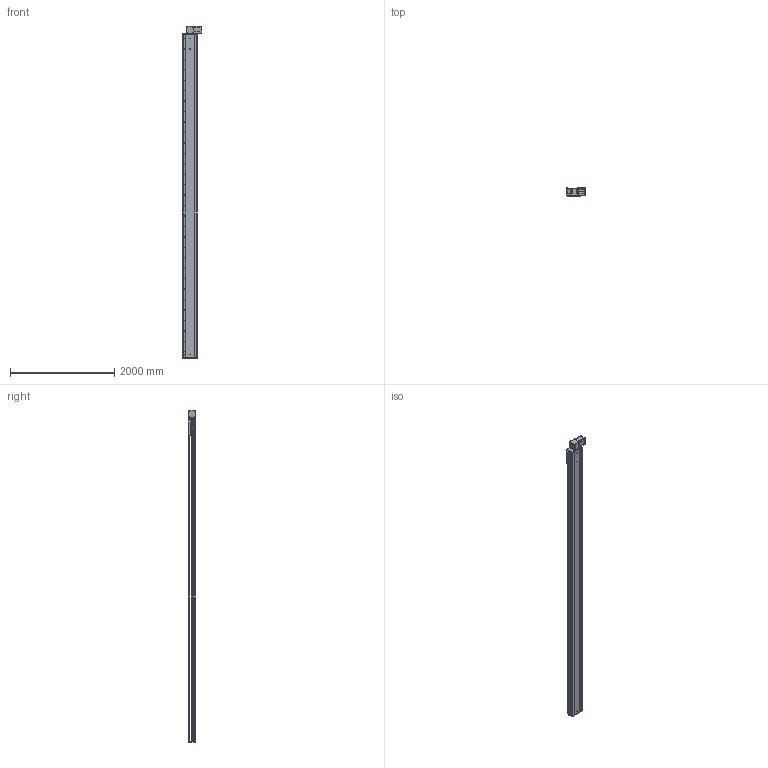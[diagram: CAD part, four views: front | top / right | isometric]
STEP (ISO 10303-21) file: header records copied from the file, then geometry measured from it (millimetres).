
FILE_DESCRIPTION (( 'STEP AP214' ), '1' );
FILE_NAME ('RTB28S-XX-5750-BL-M100-XX-C4.STEP', '2025-12-22T02:58:17', ( '' ), ( '' ), 'SwSTEP 2.0', 'SolidWorks 2018', '' );
FILE_SCHEMA (( 'AUTOMOTIVE_DESIGN' ));
Length unit declared in the file: millimetre
Products named in the file (4): RTB28S-GY-004^RTB28S-XX-XX-BL-M100-XX-C4; RTB28S-XX-5750-BL-M100-XX-C4; RTB28S-GY-008^RTB28S-XX-XX-BL-M100-XX-C4; RTB28S-GY-011^RTB28S-XX-XX-BL-M100-XX-C4
Assembly tree (3 placements, depth 2):
  RTB28S-XX-5750-BL-M100-XX-C4
    RTB28S-GY-011^RTB28S-XX-XX-BL-M100-XX-C4
    RTB28S-GY-004^RTB28S-XX-XX-BL-M100-XX-C4
    RTB28S-GY-008^RTB28S-XX-XX-BL-M100-XX-C4
Bounding box: 380.7 x 145 x 6357 mm (x, y, z)
Volume: 104411641.6 mm3; surface area: 9612994.8 mm2
Topology: 3 solids, 4 shells, 1028 faces, 2808 edges, 1808 vertices
Faces by surface type: cylinder 551, plane 393, cone 80, torus 4
Entity records: 41177 total; most frequent: CARTESIAN_POINT 8602, DIRECTION 6006, ORIENTED_EDGE 5552, EDGE_CURVE 2776, AXIS2_PLACEMENT_3D 2268, VERTEX_POINT 1808, VECTOR 1470, LINE 1470
